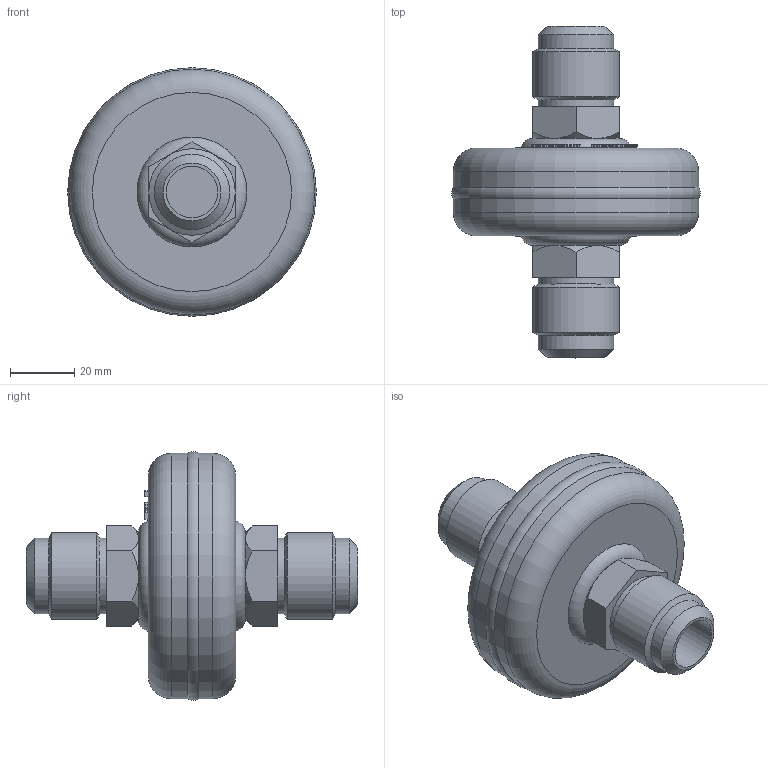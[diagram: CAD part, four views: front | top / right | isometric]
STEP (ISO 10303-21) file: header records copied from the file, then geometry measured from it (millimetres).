
FILE_DESCRIPTION(/* description */ (''),/* implementation_level */ '2;1');
FILE_NAME(/* name */ 'P:\F\F-18B\F-18B.stp',/* time_stamp */ '2017-10-05T08:17:51+02:00',/* author */ ('neufeld'),/* organization */ (''),/* preprocessor_version */ 'ST-DEVELOPER v16.1',/* originating_system */ 'Autodesk Inventor 2016',/* authorisation */ '');
FILE_SCHEMA (('AUTOMOTIVE_DESIGN { 1 0 10303 214 3 1 1 }'));
Length unit declared in the file: millimetre
Products named in the file (2): F-18B; F-18B_1
Assembly tree (1 placements, depth 2):
  F-18B_1
    F-18B
Bounding box: 77.39 x 103.31 x 77.39 mm (x, y, z)
Volume: 157921.1 mm3; surface area: 22256.6 mm2
Topology: 1 solids, 1 shells, 774 faces, 2108 edges, 1398 vertices
Faces by surface type: plane 527, bspline 214, cone 18, cylinder 10, torus 5
Full cylindrical faces by diameter (mm): 16 x2, 23.5 x4, 26.94 x2, 76.4 x2
Entity records: 25616 total; most frequent: CARTESIAN_POINT 7637, ORIENTED_EDGE 4162, DIRECTION 2793, EDGE_CURVE 2081, LINE 1591, VECTOR 1591, VERTEX_POINT 1392, EDGE_LOOP 857
